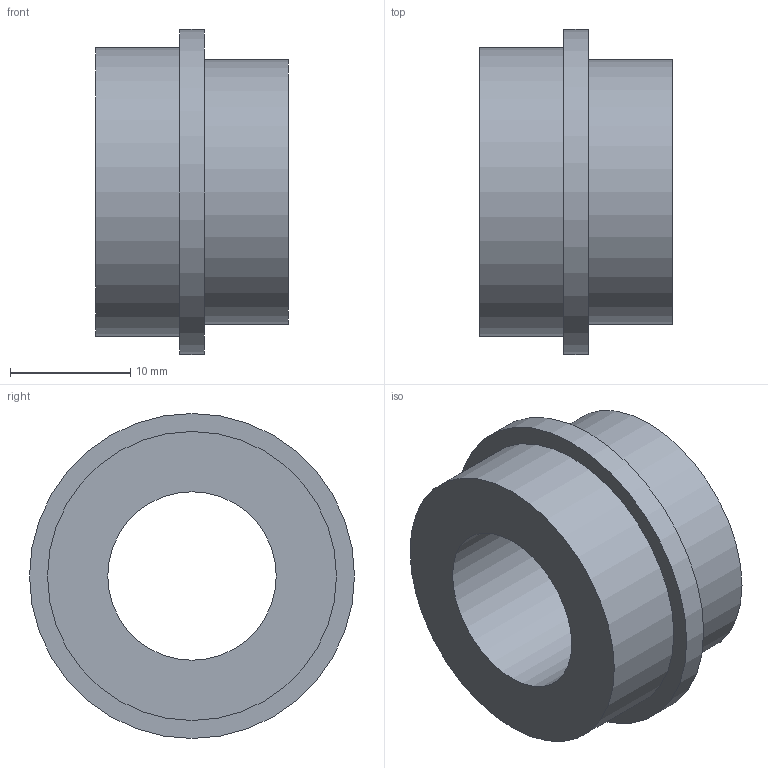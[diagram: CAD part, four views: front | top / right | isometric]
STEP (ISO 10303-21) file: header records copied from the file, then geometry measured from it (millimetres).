
FILE_DESCRIPTION(('Open CASCADE Model'),'2;1');
FILE_NAME('Open CASCADE Shape Model','2026-10-24T14:13:33',('Author'),( 'Open CASCADE'),'Open CASCADE STEP processor 7.9','Open CASCADE 7.9' ,'Unknown');
FILE_SCHEMA(('AUTOMOTIVE_DESIGN { 1 0 10303 214 1 1 1 1 }'));
Length unit declared in the file: millimetre
Products named in the file (1): Open CASCADE STEP translator 7.9 9
Bounding box: 16 x 27 x 27 mm (x, y, z)
Volume: 4509.8 mm3; surface area: 2722.2 mm2
Topology: 1 solids, 1 shells, 8 faces, 12 edges, 8 vertices
Faces by surface type: plane 4, cylinder 4
Full cylindrical faces by diameter (mm): 14 x1, 22 x1, 24 x1, 27 x1
Entity records: 354 total; most frequent: DIRECTION 62, CARTESIAN_POINT 53, ORIENTED_EDGE 24, PCURVE 24, DEFINITIONAL_REPRESENTATION 24, LINE 20, VECTOR 20, AXIS2_PLACEMENT_3D 17
